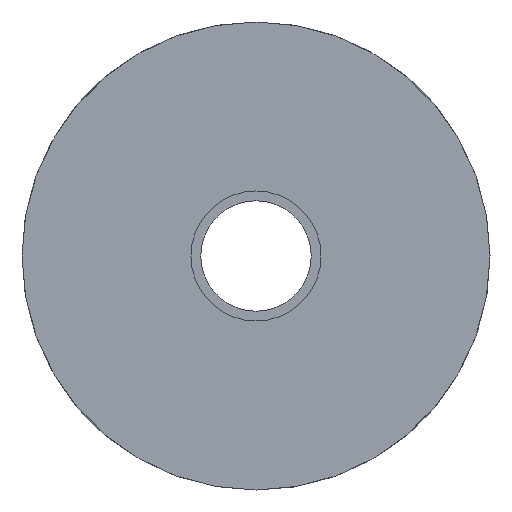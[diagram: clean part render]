
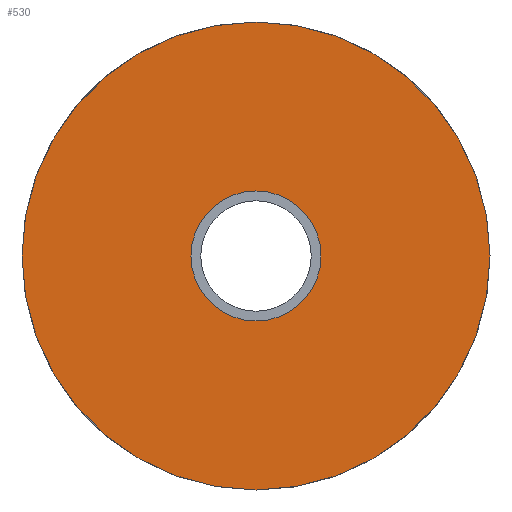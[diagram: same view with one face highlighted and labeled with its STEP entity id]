
A CAD part, left-side view. The second image highlights one B-rep face of the part: STEP entity #530.
In plain terms, the highlighted planar face has unit normal (-1, 0, 0).
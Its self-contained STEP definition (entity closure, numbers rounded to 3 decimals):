
#40=FACE_OUTER_BOUND($,#192,.T.);
#141=FACE_BOUND($,#193,.T.);
#192=EDGE_LOOP($,(#474));
#193=EDGE_LOOP($,(#475));
#211=CIRCLE($,#565,36.);
#227=CIRCLE($,#600,10.);
#257=VERTEX_POINT($,#853);
#277=VERTEX_POINT($,#920);
#315=EDGE_CURVE($,#257,#257,#211,.T.);
#343=EDGE_CURVE($,#277,#277,#227,.T.);
#474=ORIENTED_EDGE($,*,*,#315,.F.);
#475=ORIENTED_EDGE($,*,*,#343,.T.);
#496=PLANE($,#601);
#530=ADVANCED_FACE($,(#40,#141),#496,.T.);
#565=AXIS2_PLACEMENT_3D($,#854,#686,#687);
#600=AXIS2_PLACEMENT_3D($,#921,#768,#769);
#601=AXIS2_PLACEMENT_3D($,#922,#770,#771);
#686=DIRECTION('center_axis',(1.,0.,0.));
#687=DIRECTION('ref_axis',(0.,0.,-1.));
#768=DIRECTION('center_axis',(1.,0.,0.));
#769=DIRECTION('ref_axis',(0.,0.,-1.));
#770=DIRECTION('center_axis',(-1.,0.,0.));
#771=DIRECTION('ref_axis',(0.,0.,1.));
#853=CARTESIAN_POINT('',(0.,36.,0.));
#854=CARTESIAN_POINT('Origin',(0.,0.,0.));
#920=CARTESIAN_POINT('',(0.,10.,0.));
#921=CARTESIAN_POINT('Origin',(0.,0.,0.));
#922=CARTESIAN_POINT('Origin',(0.,36.,0.));
